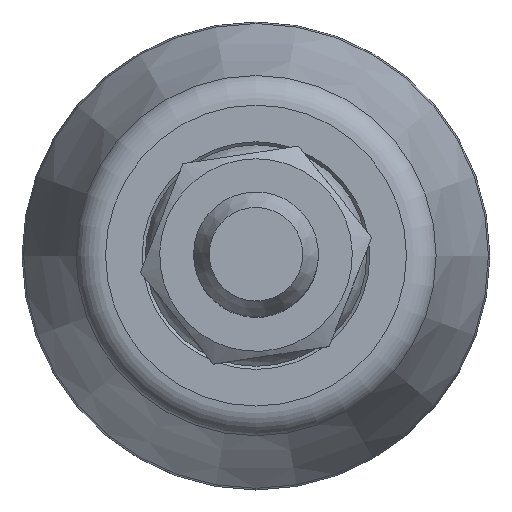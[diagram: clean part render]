
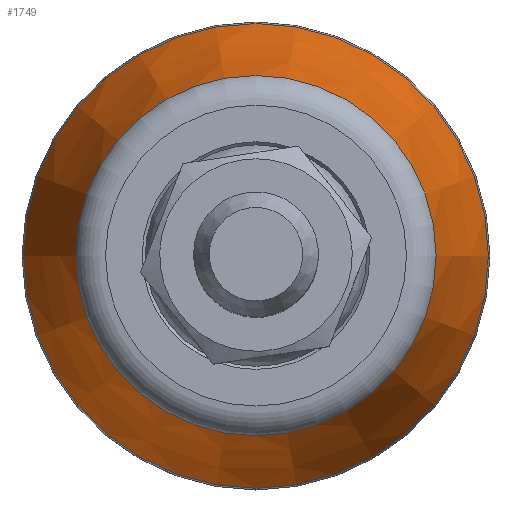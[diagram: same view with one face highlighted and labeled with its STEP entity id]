
A CAD part, top view. The second image highlights one B-rep face of the part: STEP entity #1749.
In plain terms, the highlighted conical face has half-angle 18 degrees and reference radius 13.226 mm.
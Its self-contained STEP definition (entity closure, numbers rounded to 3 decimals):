
#1749=ADVANCED_FACE('',(#3361,#3363),#3365,.T.);
#3361=FACE_BOUND('',#3362,.T.);
#3362=EDGE_LOOP('',(#4564,#4565));
#3363=FACE_BOUND('',#3364,.T.);
#3364=EDGE_LOOP('',(#4566,#4567));
#3365=CONICAL_SURFACE('',#3366,13.226,0.314);
#3366=AXIS2_PLACEMENT_3D('',#3367,#3368,#3369);
#3367=CARTESIAN_POINT('',(0.,0.,11.46));
#3368=DIRECTION('',(0.,0.,-1.));
#3369=DIRECTION('',(1.,0.,0.));
#4564=ORIENTED_EDGE('',*,*,#5190,.T.);
#4565=ORIENTED_EDGE('',*,*,#5189,.T.);
#4566=ORIENTED_EDGE('',*,*,#5193,.F.);
#4567=ORIENTED_EDGE('',*,*,#5194,.F.);
#5189=EDGE_CURVE('',#6051,#6052,#6053,.T.);
#5190=EDGE_CURVE('',#6052,#6051,#6054,.T.);
#5193=EDGE_CURVE('',#6059,#6060,#6061,.T.);
#5194=EDGE_CURVE('',#6060,#6059,#6062,.T.);
#6051=VERTEX_POINT('',#11460);
#6052=VERTEX_POINT('',#11461);
#6053=CIRCLE('',#11462,14.902);
#6054=CIRCLE('',#11466,14.902);
#6059=VERTEX_POINT('',#11480);
#6060=VERTEX_POINT('',#11481);
#6061=CIRCLE('',#11482,11.55);
#6062=CIRCLE('',#11486,11.55);
#11460=CARTESIAN_POINT('',(-14.902,0.,6.301));
#11461=CARTESIAN_POINT('',(14.902,0.,6.301));
#11462=AXIS2_PLACEMENT_3D('',#11463,#11464,#11465);
#11463=CARTESIAN_POINT('',(0.,0.,6.301));
#11464=DIRECTION('',(0.,0.,1.));
#11465=DIRECTION('',(-1.,0.,0.));
#11466=AXIS2_PLACEMENT_3D('',#11467,#11468,#11469);
#11467=CARTESIAN_POINT('',(0.,0.,6.301));
#11468=DIRECTION('',(0.,0.,1.));
#11469=DIRECTION('',(1.,0.,0.));
#11480=CARTESIAN_POINT('',(-11.55,0.,16.618));
#11481=CARTESIAN_POINT('',(11.55,0.,16.618));
#11482=AXIS2_PLACEMENT_3D('',#11483,#11484,#11485);
#11483=CARTESIAN_POINT('',(0.,0.,16.618));
#11484=DIRECTION('',(0.,0.,1.));
#11485=DIRECTION('',(-1.,0.,0.));
#11486=AXIS2_PLACEMENT_3D('',#11487,#11488,#11489);
#11487=CARTESIAN_POINT('',(0.,0.,16.618));
#11488=DIRECTION('',(0.,0.,1.));
#11489=DIRECTION('',(1.,0.,0.));
